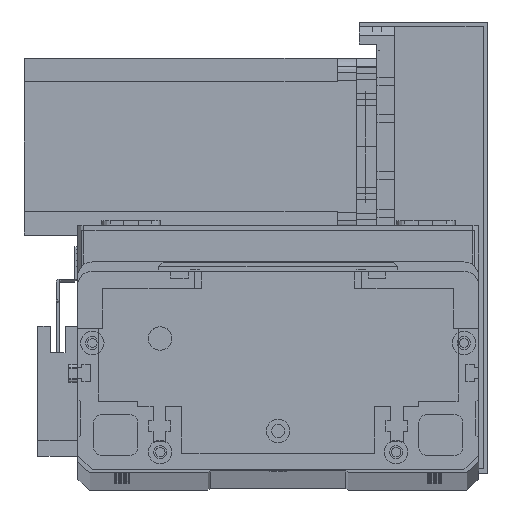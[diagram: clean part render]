
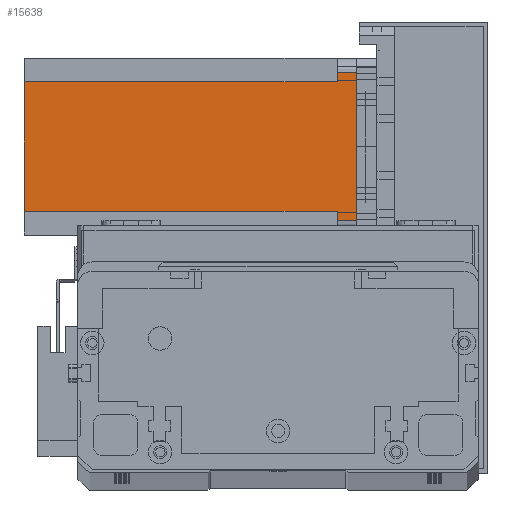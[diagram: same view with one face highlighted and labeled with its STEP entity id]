
A CAD part, top view. The second image highlights one B-rep face of the part: STEP entity #15638.
In plain terms, the highlighted planar face has unit normal (0, 0, 1) as drawn and (0, 1, 0) by its records, which use the part's own axes.
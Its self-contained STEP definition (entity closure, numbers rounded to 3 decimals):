
#1300 = EDGE_CURVE ( 'NONE', #18693, #25769, #12256, .T. ) ;
#1559 = VECTOR ( 'NONE', #11624, 1000. ) ;
#2145 = ORIENTED_EDGE ( 'NONE', *, *, #1300, .F. ) ;
#2383 = DIRECTION ( 'NONE',  ( -1., 0., 0. ) ) ;
#2925 = DIRECTION ( 'NONE',  ( 0., 0., -1. ) ) ;
#2970 = VERTEX_POINT ( 'NONE', #5960 ) ;
#3004 = ORIENTED_EDGE ( 'NONE', *, *, #10743, .T. ) ;
#3030 = CARTESIAN_POINT ( 'NONE',  ( 0., 60., -112.5 ) ) ;
#3151 = VECTOR ( 'NONE', #5562, 1000. ) ;
#3271 = EDGE_CURVE ( 'NONE', #25769, #8148, #12575, .T. ) ;
#3530 = CARTESIAN_POINT ( 'NONE',  ( 52., 60., -6.5 ) ) ;
#3558 = CARTESIAN_POINT ( 'NONE',  ( 55., 60., -112.5 ) ) ;
#3936 = LINE ( 'NONE', #3030, #3151 ) ;
#4615 = ORIENTED_EDGE ( 'NONE', *, *, #28344, .F. ) ;
#5188 = VERTEX_POINT ( 'NONE', #8515 ) ;
#5562 = DIRECTION ( 'NONE',  ( -1., 0., 0. ) ) ;
#5629 = VECTOR ( 'NONE', #28539, 1000. ) ;
#5648 = CARTESIAN_POINT ( 'NONE',  ( 52., 60., -112.5 ) ) ;
#5753 = CARTESIAN_POINT ( 'NONE',  ( 52., 60., -6.5 ) ) ;
#5886 = VERTEX_POINT ( 'NONE', #23540 ) ;
#5960 = CARTESIAN_POINT ( 'NONE',  ( 8., 60., -6.5 ) ) ;
#5964 = DIRECTION ( 'NONE',  ( 1., 0., 0. ) ) ;
#6471 = DIRECTION ( 'NONE',  ( 0., 0., 1. ) ) ;
#8148 = VERTEX_POINT ( 'NONE', #15750 ) ;
#8515 = CARTESIAN_POINT ( 'NONE',  ( 55., 60., 0. ) ) ;
#10278 = VERTEX_POINT ( 'NONE', #13534 ) ;
#10542 = CARTESIAN_POINT ( 'NONE',  ( 8., 60., -112.5 ) ) ;
#10743 = EDGE_CURVE ( 'NONE', #5188, #8148, #25534, .T. ) ;
#11358 = EDGE_LOOP ( 'NONE', ( #4615, #3004, #17599, #2145, #30548, #23805, #29856, #13616 ) ) ;
#11624 = DIRECTION ( 'NONE',  ( 0., 0., -1. ) ) ;
#12256 = LINE ( 'NONE', #24462, #5629 ) ;
#12575 = LINE ( 'NONE', #3530, #24668 ) ;
#12730 = VECTOR ( 'NONE', #2925, 1000. ) ;
#13414 = CARTESIAN_POINT ( 'NONE',  ( 8., 60., -6.5 ) ) ;
#13534 = CARTESIAN_POINT ( 'NONE',  ( 5., 60., -6.5 ) ) ;
#13616 = ORIENTED_EDGE ( 'NONE', *, *, #22667, .T. ) ;
#13683 = LINE ( 'NONE', #13414, #25704 ) ;
#14187 = VECTOR ( 'NONE', #2383, 1000. ) ;
#14568 = EDGE_CURVE ( 'NONE', #2970, #23210, #21241, .T. ) ;
#14962 = LINE ( 'NONE', #31302, #14187 ) ;
#15316 = LINE ( 'NONE', #28204, #26504 ) ;
#15638 = ADVANCED_FACE ( 'NONE', ( #21925 ), #30253, .T. ) ;
#15750 = CARTESIAN_POINT ( 'NONE',  ( 55., 60., -6.5 ) ) ;
#15870 = DIRECTION ( 'NONE',  ( -1., 0., 0. ) ) ;
#17599 = ORIENTED_EDGE ( 'NONE', *, *, #3271, .F. ) ;
#18098 = EDGE_CURVE ( 'NONE', #18693, #23210, #3936, .T. ) ;
#18693 = VERTEX_POINT ( 'NONE', #5648 ) ;
#21241 = LINE ( 'NONE', #10542, #1559 ) ;
#21925 = FACE_OUTER_BOUND ( 'NONE', #11358, .T. ) ;
#22667 = EDGE_CURVE ( 'NONE', #10278, #5886, #15316, .T. ) ;
#23210 = VERTEX_POINT ( 'NONE', #26868 ) ;
#23540 = CARTESIAN_POINT ( 'NONE',  ( 5., 60., 0. ) ) ;
#23805 = ORIENTED_EDGE ( 'NONE', *, *, #14568, .F. ) ;
#24462 = CARTESIAN_POINT ( 'NONE',  ( 52., 60., -112.5 ) ) ;
#24668 = VECTOR ( 'NONE', #5964, 1000. ) ;
#25534 = LINE ( 'NONE', #3558, #12730 ) ;
#25704 = VECTOR ( 'NONE', #15870, 1000. ) ;
#25769 = VERTEX_POINT ( 'NONE', #5753 ) ;
#26504 = VECTOR ( 'NONE', #6471, 1000. ) ;
#26868 = CARTESIAN_POINT ( 'NONE',  ( 8., 60., -112.5 ) ) ;
#28204 = CARTESIAN_POINT ( 'NONE',  ( 5., 60., -112.5 ) ) ;
#28344 = EDGE_CURVE ( 'NONE', #5188, #5886, #14962, .T. ) ;
#28539 = DIRECTION ( 'NONE',  ( 0., 0., 1. ) ) ;
#29637 = AXIS2_PLACEMENT_3D ( 'NONE', #30681, #29947, #29904 ) ;
#29856 = ORIENTED_EDGE ( 'NONE', *, *, #30906, .T. ) ;
#29904 = DIRECTION ( 'NONE',  ( 0., 0., 1. ) ) ;
#29947 = DIRECTION ( 'NONE',  ( 0., 1., 0. ) ) ;
#30253 = PLANE ( 'NONE',  #29637 ) ;
#30548 = ORIENTED_EDGE ( 'NONE', *, *, #18098, .T. ) ;
#30681 = CARTESIAN_POINT ( 'NONE',  ( 0., 60., -112.5 ) ) ;
#30906 = EDGE_CURVE ( 'NONE', #2970, #10278, #13683, .T. ) ;
#31302 = CARTESIAN_POINT ( 'NONE',  ( 0., 60., 0. ) ) ;
